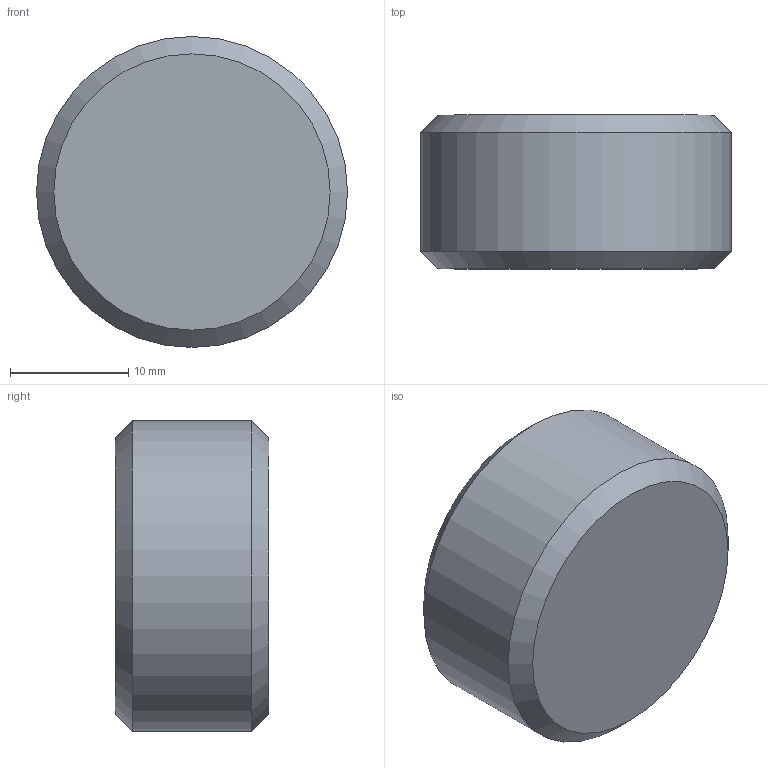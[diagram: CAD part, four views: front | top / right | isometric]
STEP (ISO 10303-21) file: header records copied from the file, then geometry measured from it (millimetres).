
FILE_DESCRIPTION(/* description */ (''),/* implementation_level */ '2;1');
FILE_NAME(/* name */ 'C:/Users/drich/Desktop/cad/Plugs/BSPT Pipe Plugs/Steel/SF-BSPT-34 v1.step',/* time_stamp */ '2020-01-10T13:00:55-06:00',/* author */ (''),/* organization */ (''),/* preprocessor_version */ 'ST-DEVELOPER v18',/* originating_system */ 'Autodesk Translation Framework v8.12.0.6',/* authorisation */ '');
FILE_SCHEMA (('AUTOMOTIVE_DESIGN { 1 0 10303 214 3 1 1 }'));
Length unit declared in the file: inch
Products named in the file (1): SF-BSPT-34
Bounding box: 26.3 x 13 x 26.3 mm (x, y, z)
Volume: 5333.1 mm3; surface area: 2419.1 mm2
Topology: 1 solids, 1 shells, 13 faces, 35 edges, 25 vertices
Faces by surface type: plane 9, cone 3, cylinder 1
Full cylindrical faces by diameter (mm): 26.299 x1
Entity records: 439 total; most frequent: CARTESIAN_POINT 98, ORIENTED_EDGE 70, DIRECTION 58, EDGE_CURVE 35, VERTEX_POINT 25, AXIS2_PLACEMENT_3D 21, LINE 16, VECTOR 16
